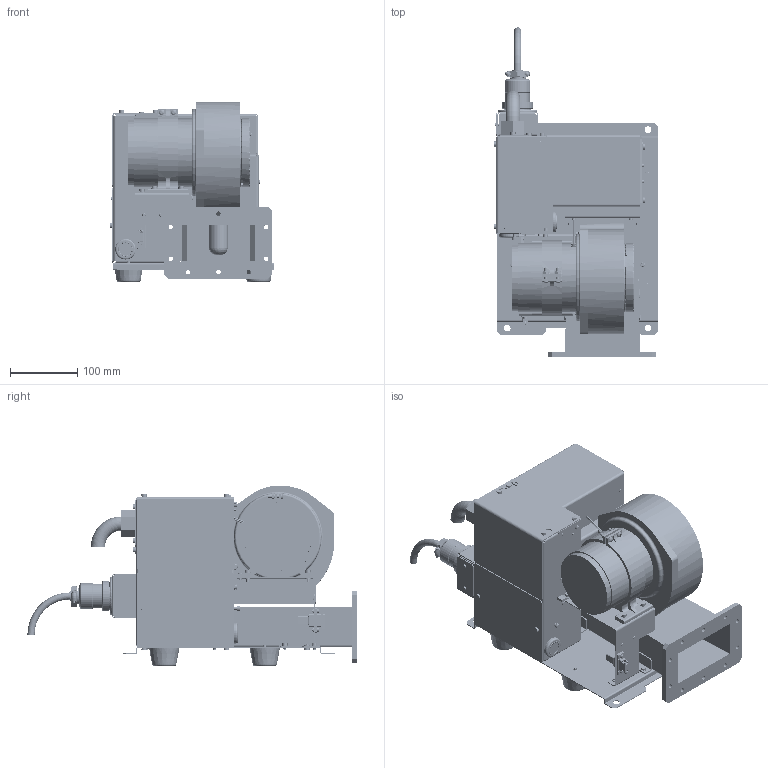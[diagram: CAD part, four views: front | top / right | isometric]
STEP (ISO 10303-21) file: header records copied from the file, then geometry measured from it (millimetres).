
FILE_DESCRIPTION(('STEP AP214'),'1');
FILE_NAME('MH-30CJ-SA+CABLE(AP214).stp','2023-06-27T01:29:41',(' '),(' '),'Spatial InterOp 3D',' ',' ');
FILE_SCHEMA(('AUTOMOTIVE_DESIGN { 1 0 10303 214 1 1 1 1 }'));
Length unit declared in the file: millimetre
Products named in the file (112): MH-30CJ-SA; BK43808A; 板金パーツ49; 板金パーツ52; 板金パーツ54; 板金パーツ51; BK40058B; BH41778E; BH41782E; 板金パーツ50; AD32ABS; M3-PressNut; M4-PressNut; BK40804A; 2M251_2_001; #6568; BDR-31TR_001; BDR-31TA_001; c-1-179553-2-r-3d1_001; C-30-RK-45-EP-UL-BLACK_005; CH20BFAUL_001; _MB1255-D; _PAS6A; _FGB12; UF1003-20A-2P-PCA_001; V-214-1C6_001; BK43888A; BK43809A; BK43806B; TEU1102_001; TEU1103_001; PAN-SUS-M3X8; PLAIN-SUS-3-ISO-S; SPRING-SUS-3; HEX-SUS-M3; BK43807A; パーツ1; ねじ: チーズ - M4.0 x 17.376; ANGLE-A; BK43833A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
Assembly tree (243 placements, depth 3):
  MH-30CJ-SA+CABLE
    MH-30CJ-SA
      BK43808A
      板金パーツ49
      板金パーツ52
      板金パーツ54
      板金パーツ49
      板金パーツ51
      板金パーツ52
      BK40058B
      BH41778E
      BH41782E
      板金パーツ49
      板金パーツ50
      板金パーツ49
      板金パーツ50
      AD32ABS  x5
      M3-PressNut  x3
      M4-PressNut  x17
      BK40804A
      2M251_2_001
      #6568
      BDR-31TR_001
      BDR-31TA_001
      c-1-179553-2-r-3d1_001
      C-30-RK-45-EP-UL-BLACK_005  x4
      CH20BFAUL_001
      _MB1255-D
      _PAS6A
      _FGB12
      UF1003-20A-2P-PCA_001
      V-214-1C6_001
      BK43888A
      BK43809A
      BK43806B
      TEU1102_001
      TEU1103_001
      PAN-SUS-M3X8  x2
      PLAIN-SUS-3-ISO-S  x2
      SPRING-SUS-3  x2
      HEX-SUS-M3  x2
      BK43807A
      PAN-SUS-M3X8  x2
      SPRING-SUS-3  x2
      パーツ1  x4
      ねじ: チーズ - M4.0 x 17.376  x4
      ANGLE-A  x2
      BK43833A
      BK41154A
      BK41155A
      SPRING-SUS-3  x4
      PAN-SUS-M3X8  x4
      PAN-SUS-M5X12  x4
      SPRING-SUS-5  x3
      SKM-2  x3
      BK43810A
      BK43831B
      STS-M3-5
      パーツ1
      パーツ2
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Bounding box: 243.8 x 491.1 x 269.5 mm (x, y, z)
Volume: 4892457.1 mm3; surface area: 1519288 mm2
Topology: 241 solids, 242 shells, 3927 faces, 9163 edges, 5795 vertices
Faces by surface type: plane 2649, cylinder 843, torus 262, cone 158, bspline 10, extrusion 2, sphere 2, revolution 1
Full cylindrical faces by diameter (mm): 1.3 x4, 2 x2, 2.4 x5, 3 x22, 3.2 x2, 3.291 x1, 3.3 x8, 3.4 x3, 4 x45, 4.05 x8, 4.2 x7, 4.6 x1, 4.8 x6, 4.9 x2, 4.95 x4, 5 x11, 5.275 x3, 5.38 x17, 5.45 x19, 5.6 x2, 5.881 x4, 6 x11, 6.35 x3, 6.6 x10, 6.625 x17, 7 x2, 7.6 x4, 7.8 x37, 7.87 x17, 8 x21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
Entity records: 126933 total; most frequent: CARTESIAN_POINT 20457, DIRECTION 15541, ORIENTED_EDGE 14894, EDGE_CURVE 7447, AXIS2_PLACEMENT_3D 5304, VECTOR 4932, LINE 4930, VERTEX_POINT 4866
